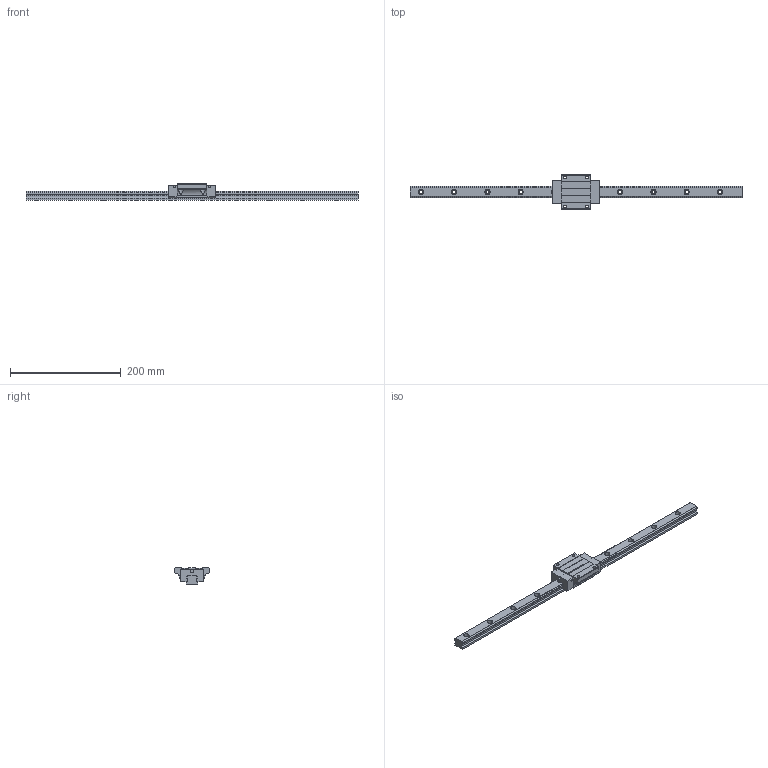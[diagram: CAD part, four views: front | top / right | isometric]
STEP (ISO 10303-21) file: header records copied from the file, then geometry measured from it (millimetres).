
FILE_DESCRIPTION (( 'STEP AP203' ), '1' );
FILE_NAME ('TRH20FN-ZN.STEP', '2024-05-14T06:43:19', ( '' ), ( '' ), 'SwSTEP 2.0', 'SolidWorks 2022', '' );
FILE_SCHEMA (( 'CONFIG_CONTROL_DESIGN' ));
Length unit declared in the file: millimetre
Products named in the file (1): TRH20FN-ZN
Bounding box: 600 x 63 x 30 mm (x, y, z)
Volume: 246019.3 mm3; surface area: 67831.1 mm2
Topology: 2 solids, 2 shells, 222 faces, 598 edges, 392 vertices
Faces by surface type: cylinder 126, plane 92, sphere 4
Entity records: 7729 total; most frequent: CARTESIAN_POINT 1871, DIRECTION 1242, ORIENTED_EDGE 1188, EDGE_CURVE 594, AXIS2_PLACEMENT_3D 451, VERTEX_POINT 392, LINE 340, VECTOR 340
